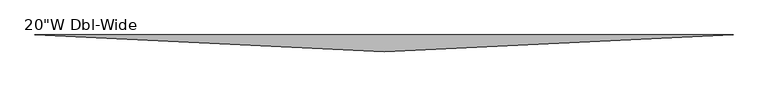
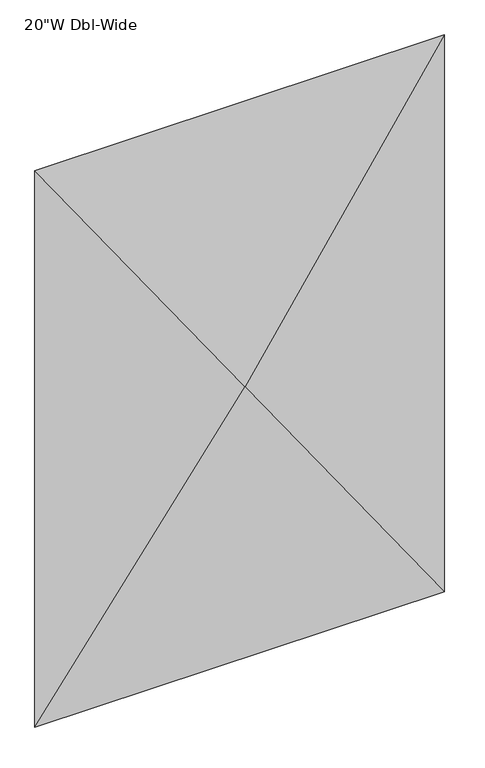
"""IFC4 building model written with IfcOpenShell, lengths in millimetres: furniture geometry."""

from ifc_helpers import new_model, si_unit, origin, place, context, project, spatial, faceted_brep, source, transform, mapped, element, save


def furniture_c81ed478(model_context):
    return source(origin(), model_context, "Body", "Brep", [
        faceted_brep([(109.855, 85.7758, 1255.71504), (1176.655, 85.7758, 1255.71504), (643.255, 60.3758, 2022.2791025), (109.855, 85.7758, 2788.843165), (1176.655, 85.7758, 2788.843165)], [[[0, 1, 2]], [[1, 0, 3, 4]], [[4, 3, 2]], [[0, 2, 3]], [[2, 1, 4]]]),
    ])


if __name__ == "__main__":
    model = new_model("IFC4")
    model_context = context("Model", 3, world=origin())
    ifc_project = project(units=[si_unit("LENGTHUNIT", "METRE", prefix="MILLI")], contexts=[model_context])
    site = spatial("IfcSite", under=ifc_project)
    building = spatial("IfcBuilding", under=site)
    placement = place(None, origin())
    furniture_shape = furniture_c81ed478(model_context)
    element("IfcFurniture", 1, ObjectType="HermanMiller_Carts_CT703_Curtain : 20\"W Dbl-Wide", at=placement, inside=building, context=model_context, shape_type="MappedRepresentation", body=[
        mapped(furniture_shape, transform((0.0, 0.0, 0.0), x_axis=(1.0, 0.0, 0.0), y_axis=(0.0, 1.0, 0.0), z_axis=(0.0, 0.0, 1.0))),
    ])
    save(model, "model.ifc")
